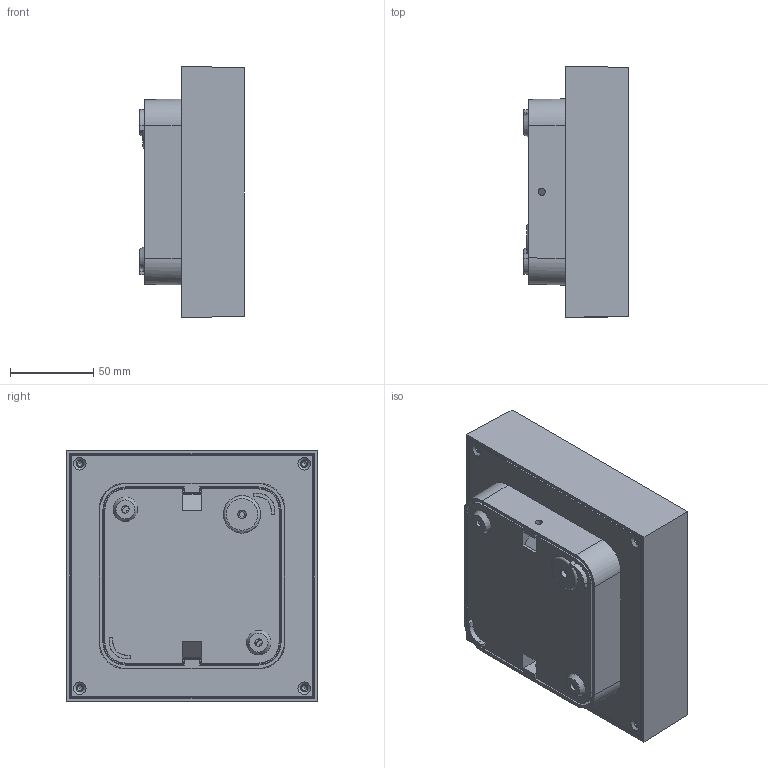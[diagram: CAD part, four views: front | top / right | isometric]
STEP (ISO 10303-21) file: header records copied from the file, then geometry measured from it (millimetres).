
FILE_DESCRIPTION (( 'STEP AP214' ), '1' );
FILE_NAME ('NEXUS-P2083071.STEP', '2026-01-15T06:17:20', ( '' ), ( '' ), 'SwSTEP 2.0', 'SolidWorks 2025', '' );
FILE_SCHEMA (( 'AUTOMOTIVE_DESIGN' ));
Length unit declared in the file: millimetre
Products named in the file (1): NEXUS-P2083071
Bounding box: 63 x 150.65 x 150.65 mm (x, y, z)
Volume: 296500.5 mm3; surface area: 251427.4 mm2
Topology: 6 solids, 6 shells, 390 faces, 1027 edges, 687 vertices
Faces by surface type: plane 268, cone 64, cylinder 53, torus 5
Full cylindrical faces by diameter (mm): 2.2 x4, 2.5 x3, 3.2 x5, 4.2 x2, 4.5 x6, 5 x2, 6 x2, 7.5 x4, 11 x1, 17 x1, 18 x1, 22 x2
Entity records: 11644 total; most frequent: CARTESIAN_POINT 2123, DIRECTION 1906, ORIENTED_EDGE 1876, EDGE_CURVE 938, LINE 686, VECTOR 686, VERTEX_POINT 657, AXIS2_PLACEMENT_3D 610
